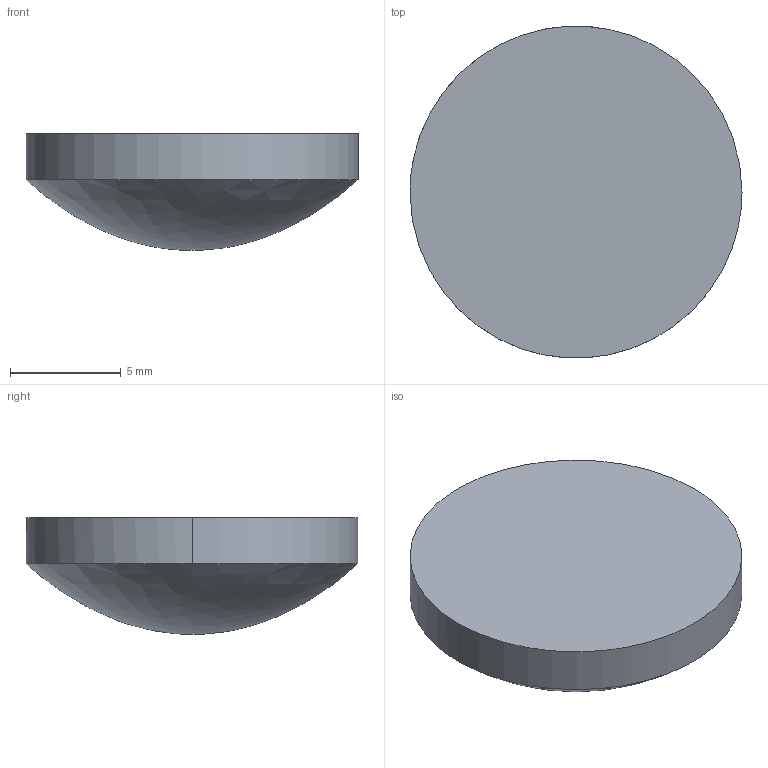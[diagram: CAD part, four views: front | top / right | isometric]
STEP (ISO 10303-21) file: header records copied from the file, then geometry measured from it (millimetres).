
FILE_DESCRIPTION ((), '1');
FILE_NAME ('\\fileserver\Daten\Applikationen\Optikdesign\SPA-Design\aktuelle SPA-Designs\Linsenkataloge - 2016-Juni\Zemax\AHL\AHL15-12.STP', '2016-05-24T14:17:33', ('Unknown'), ('Unknown'), 'HarmonyWare STEP v2.0.1', 'HarmonyWare Translators', '');
FILE_SCHEMA (('CONFIG_CONTROL_DESIGN'));
Length unit declared in the file: millimetre
Products named in the file (1): NONE
Bounding box: 15 x 14.98 x 5.28 mm (x, y, z)
Volume: 656.9 mm3; surface area: 481.9 mm2
Topology: 1 solids, 1 shells, 4 faces, 9 edges, 6 vertices
Faces by surface type: cylinder 2, bspline 1, plane 1
Entity records: 285 total; most frequent: CARTESIAN_POINT 134, ORIENTED_EDGE 16, EDGE_CURVE 8, PERSON 8, ORGANIZATION 8, PERSON_AND_ORGANIZATION 8, VERTEX_POINT 6, DIRECTION 6
